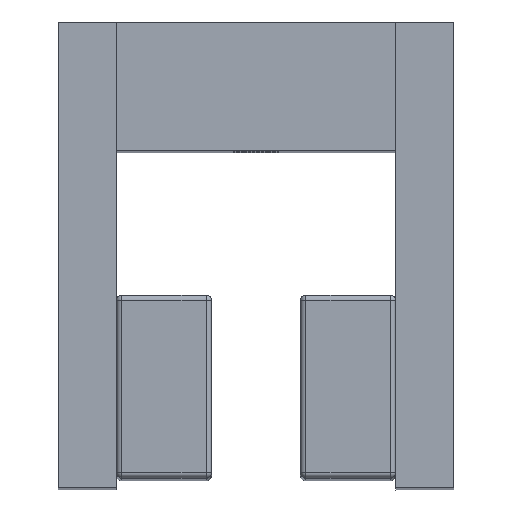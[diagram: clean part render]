
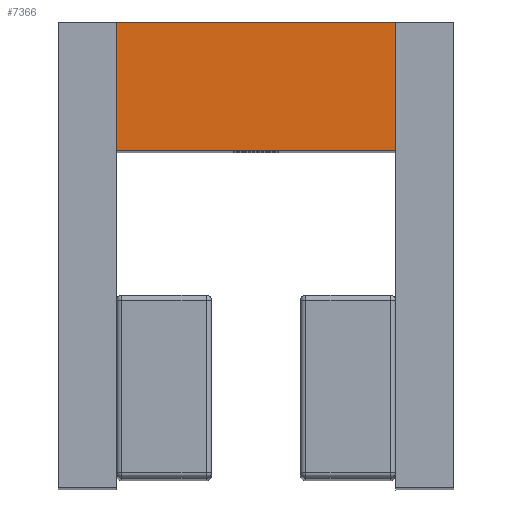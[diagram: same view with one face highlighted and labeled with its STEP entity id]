
A CAD part, top view. The second image highlights one B-rep face of the part: STEP entity #7366.
In plain terms, the highlighted planar face has unit normal (0, 0, 1).
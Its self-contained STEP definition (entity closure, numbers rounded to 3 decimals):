
#373 = CARTESIAN_POINT ( 'NONE',  ( 0., 7., 0. ) ) ;
#583 = LINE ( 'NONE', #16478, #14851 ) ;
#1155 = VERTEX_POINT ( 'NONE', #15887 ) ;
#1462 = ORIENTED_EDGE ( 'NONE', *, *, #2101, .T. ) ;
#2101 = EDGE_CURVE ( 'NONE', #5002, #14646, #11642, .T. ) ;
#3033 = CARTESIAN_POINT ( 'NONE',  ( 15.25, 7., 0. ) ) ;
#4092 = CARTESIAN_POINT ( 'NONE',  ( 15.25, 0., 0. ) ) ;
#4391 = DIRECTION ( 'NONE',  ( 0., 1., 0. ) ) ;
#4541 = VECTOR ( 'NONE', #16493, 1000. ) ;
#4624 = VECTOR ( 'NONE', #4391, 1000. ) ;
#5002 = VERTEX_POINT ( 'NONE', #373 ) ;
#5732 = DIRECTION ( 'NONE',  ( -1., 0., 0. ) ) ;
#5944 = FACE_OUTER_BOUND ( 'NONE', #11861, .T. ) ;
#6715 = VERTEX_POINT ( 'NONE', #13662 ) ;
#7366 = ADVANCED_FACE ( 'NONE', ( #5944 ), #15004, .F. ) ;
#8469 = ORIENTED_EDGE ( 'NONE', *, *, #10520, .T. ) ;
#8542 = DIRECTION ( 'NONE',  ( -1., 0., 0. ) ) ;
#8610 = LINE ( 'NONE', #3033, #4624 ) ;
#8654 = LINE ( 'NONE', #4092, #15727 ) ;
#9008 = EDGE_CURVE ( 'NONE', #14646, #1155, #8654, .T. ) ;
#10520 = EDGE_CURVE ( 'NONE', #1155, #6715, #8610, .T. ) ;
#10578 = EDGE_CURVE ( 'NONE', #6715, #5002, #583, .T. ) ;
#11278 = CARTESIAN_POINT ( 'NONE',  ( 0., 0., 0. ) ) ;
#11642 = LINE ( 'NONE', #11278, #4541 ) ;
#11861 = EDGE_LOOP ( 'NONE', ( #1462, #12178, #8469, #13660 ) ) ;
#12178 = ORIENTED_EDGE ( 'NONE', *, *, #9008, .T. ) ;
#12384 = CARTESIAN_POINT ( 'NONE',  ( 0., 7., 0. ) ) ;
#13428 = DIRECTION ( 'NONE',  ( 1., 0., 0. ) ) ;
#13660 = ORIENTED_EDGE ( 'NONE', *, *, #10578, .T. ) ;
#13662 = CARTESIAN_POINT ( 'NONE',  ( 15.25, 7., 0. ) ) ;
#13704 = AXIS2_PLACEMENT_3D ( 'NONE', #12384, #13724, #5732 ) ;
#13724 = DIRECTION ( 'NONE',  ( 0., 0., -1. ) ) ;
#14646 = VERTEX_POINT ( 'NONE', #16254 ) ;
#14851 = VECTOR ( 'NONE', #8542, 1000. ) ;
#15004 = PLANE ( 'NONE',  #13704 ) ;
#15727 = VECTOR ( 'NONE', #13428, 1000. ) ;
#15887 = CARTESIAN_POINT ( 'NONE',  ( 15.25, 0., 0. ) ) ;
#16254 = CARTESIAN_POINT ( 'NONE',  ( 0., 0., 0. ) ) ;
#16478 = CARTESIAN_POINT ( 'NONE',  ( 0., 7., 0. ) ) ;
#16493 = DIRECTION ( 'NONE',  ( 0., -1., 0. ) ) ;
